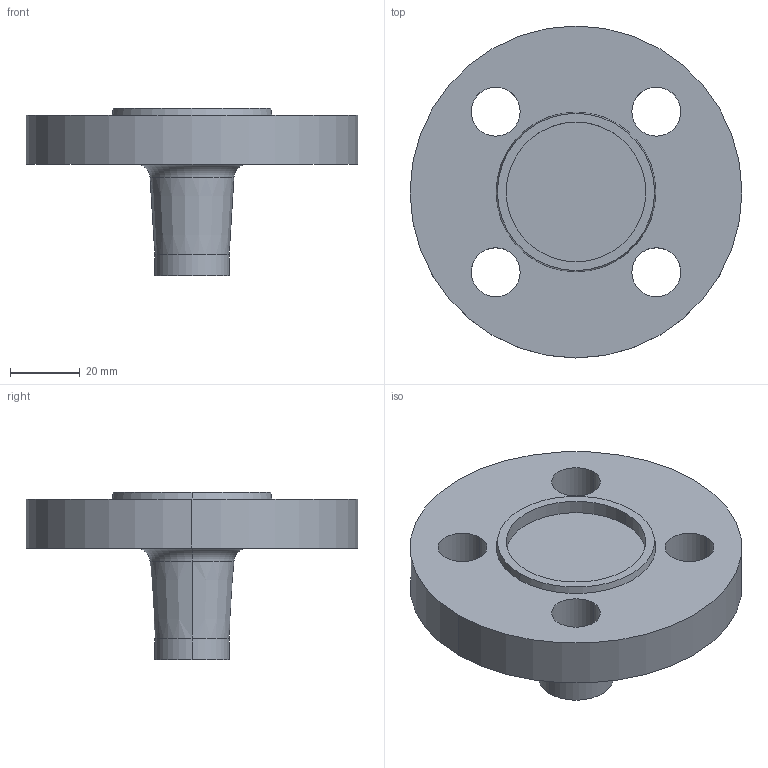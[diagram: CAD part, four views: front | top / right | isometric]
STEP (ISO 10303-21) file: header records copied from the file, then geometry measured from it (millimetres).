
FILE_DESCRIPTION (( 'STEP AP214' ), '1' );
FILE_NAME ('PN40 DN15 Type 21(ii) - Type F Face.STEP', '2018-12-29T14:23:53', ( '' ), ( '' ), 'SwSTEP 2.0', 'SolidWorks 2019', '' );
FILE_SCHEMA (( 'AUTOMOTIVE_DESIGN' ));
Length unit declared in the file: millimetre
Products named in the file (1): PN40 DN15 Type 21(ii) - Type F Face
Bounding box: 95 x 95 x 48 mm (x, y, z)
Volume: 101907.8 mm3; surface area: 22380.1 mm2
Topology: 1 solids, 1 shells, 27 faces, 60 edges, 38 vertices
Faces by surface type: cylinder 14, plane 5, torus 4, cone 4
Entity records: 818 total; most frequent: DIRECTION 158, CARTESIAN_POINT 126, ORIENTED_EDGE 120, AXIS2_PLACEMENT_3D 70, EDGE_CURVE 60, CIRCLE 42, EDGE_LOOP 38, VERTEX_POINT 38
